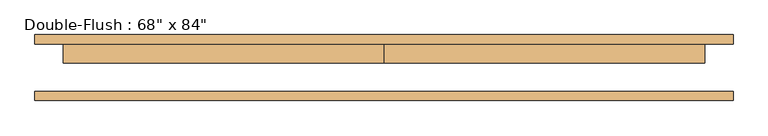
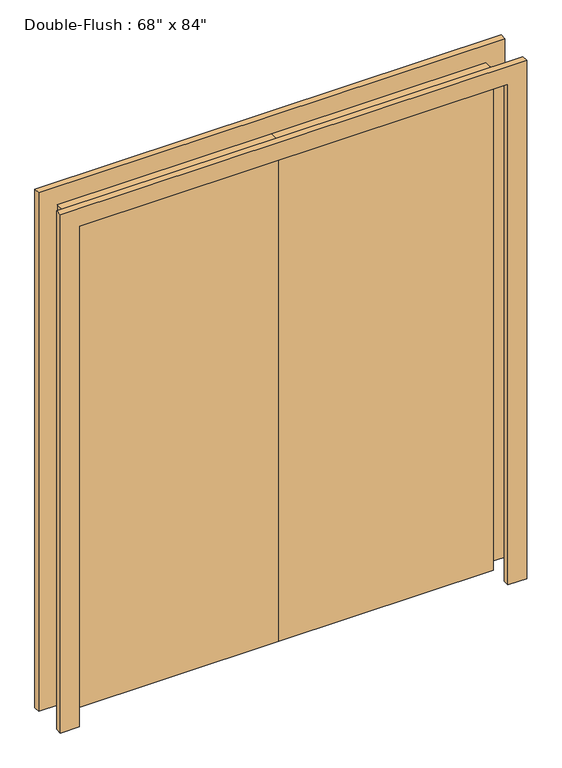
"""IFC4 building model written with IfcOpenShell, lengths in millimetres: door geometry."""

from ifc_helpers import new_model, si_unit, frame, origin, origin_with_axes, place, context, project, spatial, polyline, outline, extrude, source, transform, mapped, element, save


def door_07ba55ef(model_context):
    return source(origin(), model_context, "Body", "SweptSolid", [
        extrude(outline(polyline([(0.0, 63.5), (863.6, 63.5), (863.6, 12.7), (0.0, 12.7), (0.0, 63.5)])), origin_with_axes(), (0.0, 0.0, 1.0), 2133.6),
        extrude(outline(polyline([(-863.6, 63.5), (0.0, 63.5), (0.0, 12.7), (-863.6, 12.7), (-863.6, 63.5)])), origin_with_axes(), (0.0, 0.0, 1.0), 2133.6),
        extrude(outline(polyline([(2133.6, -863.6), (2133.6, 863.6), (0.0, 863.6), (0.0, 939.8), (2209.8, 939.8), (2209.8, -939.8), (0.0, -939.8), (0.0, -863.6), (2133.6, -863.6)])), frame((0.0, -88.9, 0.0), z_axis=(0.0, 1.0, 0.0), x_axis=(0.0, 0.0, 1.0)), (0.0, 0.0, 1.0), 25.4),
        extrude(outline(polyline([(2133.6, -863.6), (2133.6, 863.6), (0.0, 863.6), (0.0, 939.8), (2209.8, 939.8), (2209.8, -939.8), (0.0, -939.8), (0.0, -863.6), (2133.6, -863.6)])), frame((0.0, 63.5, 0.0), z_axis=(0.0, 1.0, 0.0), x_axis=(0.0, 0.0, 1.0)), (0.0, 0.0, 1.0), 25.4),
    ])


if __name__ == "__main__":
    model = new_model("IFC4")
    model_context = context("Model", 3, world=origin())
    ifc_project = project(units=[si_unit("LENGTHUNIT", "METRE", prefix="MILLI")], contexts=[model_context])
    site = spatial("IfcSite", under=ifc_project)
    building = spatial("IfcBuilding", under=site)
    placement = place(None, origin())
    door_shape = door_07ba55ef(model_context)
    element("IfcDoor", 1, ObjectType="Double-Flush : 68\" x 84\"", at=placement, inside=building, context=model_context, shape_type="MappedRepresentation", body=[
        mapped(door_shape, transform((0.0, 0.0, 0.0), x_axis=(1.0, 0.0, 0.0), y_axis=(0.0, 1.0, 0.0), z_axis=(0.0, 0.0, 1.0))),
    ])
    save(model, "model.ifc")
